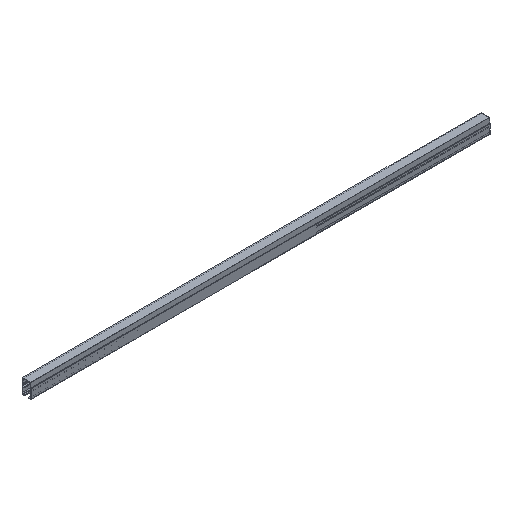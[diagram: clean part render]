
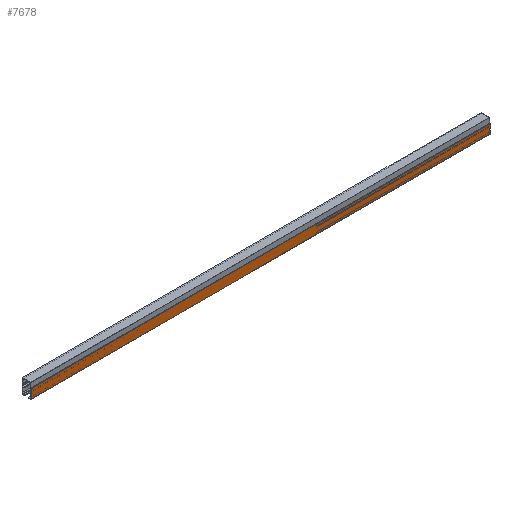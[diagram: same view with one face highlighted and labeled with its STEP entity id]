
A CAD part, isometric view. The second image highlights one B-rep face of the part: STEP entity #7678.
In plain terms, the highlighted planar face has unit normal (0, -1, 0).
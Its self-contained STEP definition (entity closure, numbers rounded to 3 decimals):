
#7678=ADVANCED_FACE('',(#12908),#12909,.T.);
#12908=FACE_OUTER_BOUND('',#20668,.T.);
#12909=PLANE('',#20669);
#20668=EDGE_LOOP('',(#23697,#23698,#23699,#23700));
#20669=AXIS2_PLACEMENT_3D('',#23701,#23702,#23703);
#23697=ORIENTED_EDGE('',*,*,#29258,.T.);
#23698=ORIENTED_EDGE('',*,*,#29259,.T.);
#23699=ORIENTED_EDGE('',*,*,#29260,.F.);
#23700=ORIENTED_EDGE('',*,*,#29261,.F.);
#23701=CARTESIAN_POINT('',(2500.0,0.,2.0));
#23702=DIRECTION('',(0.,-1.0,0.0));
#23703=DIRECTION('',(0.0,0.0,1.0));
#29258=EDGE_CURVE('',#32778,#32779,#32780,.T.);
#29259=EDGE_CURVE('',#32779,#32781,#32782,.T.);
#29260=EDGE_CURVE('',#32783,#32781,#32784,.T.);
#29261=EDGE_CURVE('',#32778,#32783,#32785,.T.);
#32778=VERTEX_POINT('',#33363);
#32779=VERTEX_POINT('',#33364);
#32780=LINE('',#33365,#33366);
#32781=VERTEX_POINT('',#33367);
#32782=LINE('',#33368,#33369);
#32783=VERTEX_POINT('',#33370);
#32784=LINE('',#33371,#33372);
#32785=LINE('',#33373,#33374);
#33363=CARTESIAN_POINT('',(2000.0,0.,2.0));
#33364=CARTESIAN_POINT('',(2000.0,0.,42.0));
#33365=CARTESIAN_POINT('',(2000.0,0.,2.0));
#33366=VECTOR('',#33956,1.0);
#33367=CARTESIAN_POINT('',(0.0,0.0,42.0));
#33368=CARTESIAN_POINT('',(2500.0,0.,42.0));
#33369=VECTOR('',#33957,1.0);
#33370=CARTESIAN_POINT('',(0.0,0.0,2.0));
#33371=CARTESIAN_POINT('',(0.0,0.0,2.0));
#33372=VECTOR('',#33958,1.0);
#33373=CARTESIAN_POINT('',(2500.0,0.,2.0));
#33374=VECTOR('',#33959,1.0);
#33956=DIRECTION('',(0.0,0.0,1.0));
#33957=DIRECTION('',(-1.0,0.,0.0));
#33958=DIRECTION('',(0.0,0.0,1.0));
#33959=DIRECTION('',(-1.0,0.,0.0));
